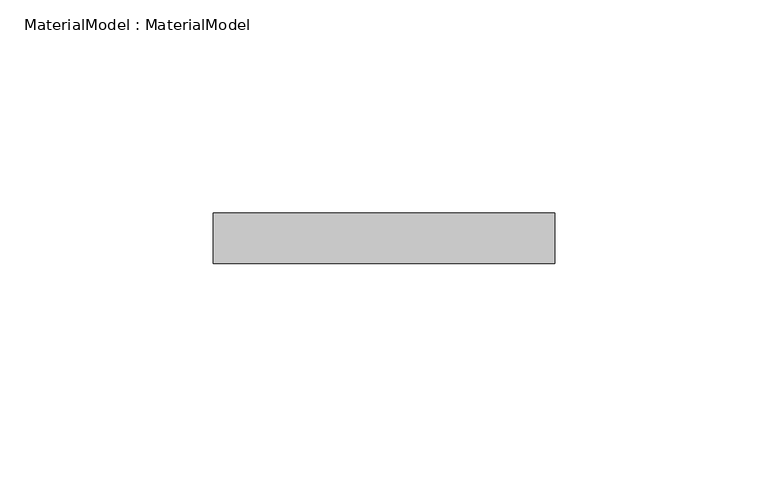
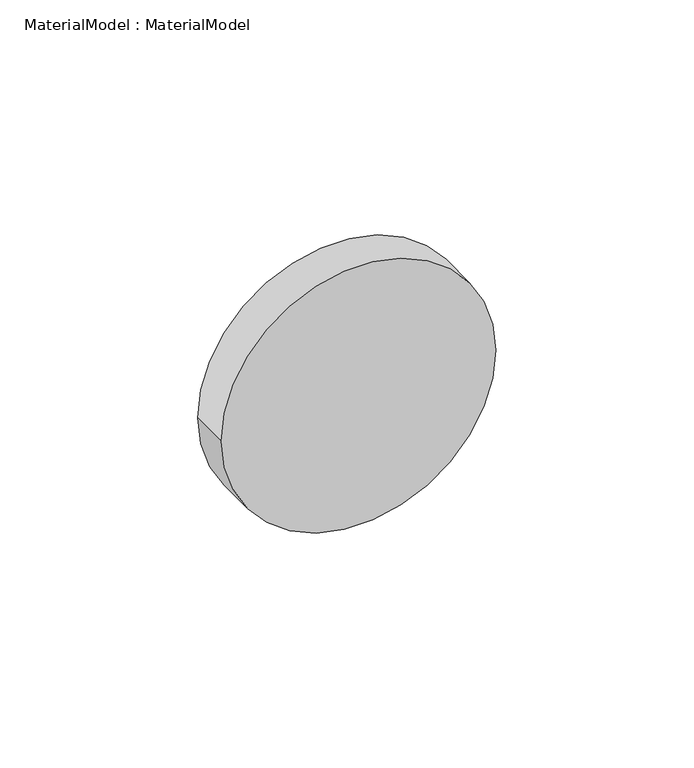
"""IFC4 building model written with IfcOpenShell, lengths in millimetres: proxy geometry, MaterialModel : MaterialModel."""

from ifc_helpers import new_model, si_unit, point, frame, frame_2d, origin, place, context, project, spatial, circle_curve, trimmed, segment, composite_curve, outline, extrude, source, transform, mapped, element, save


def materialmodel_materialmodel_6280714f(model_context):
    return source(origin(), model_context, "Body", "SweptSolid", [
        extrude(outline(composite_curve([segment(trimmed(circle_curve(frame_2d((75.0, 0.0)), 40.0), [point((75.0, -40.0))], [point((75.0, 40.0))], False, "CARTESIAN"), True, "CONTINUOUS"), segment(trimmed(circle_curve(frame_2d((75.0, 0.0)), 40.0), [point((75.0, 40.0))], [point((75.0, -40.0))], False, "CARTESIAN"), True, "CONTINUOUS")], self_intersect=False)), frame((0.0, -11.8565782, 0.0), z_axis=(0.0, 1.0, 0.0), x_axis=(0.0, 0.0, 1.0)), (0.0, 0.0, 1.0), 11.8565782),
    ])


if __name__ == "__main__":
    model = new_model("IFC4")
    model_context = context("Model", 3, world=origin())
    ifc_project = project(units=[si_unit("LENGTHUNIT", "METRE", prefix="MILLI")], contexts=[model_context])
    site = spatial("IfcSite", under=ifc_project)
    building = spatial("IfcBuilding", under=site)
    placement = place(None, origin())
    materialmodel_materialmodel_shape = materialmodel_materialmodel_6280714f(model_context)
    element("IfcBuildingElementProxy", 1, Name="MaterialModel : MaterialModel", ObjectType="MaterialModel : MaterialModel", at=placement, inside=building, context=model_context, shape_type="MappedRepresentation", body=[
        mapped(materialmodel_materialmodel_shape, transform((0.0, 0.0, 0.0), x_axis=(1.0, 0.0, 0.0), y_axis=(0.0, 1.0, 0.0), z_axis=(0.0, 0.0, 1.0))),
    ])
    save(model, "model.ifc")
